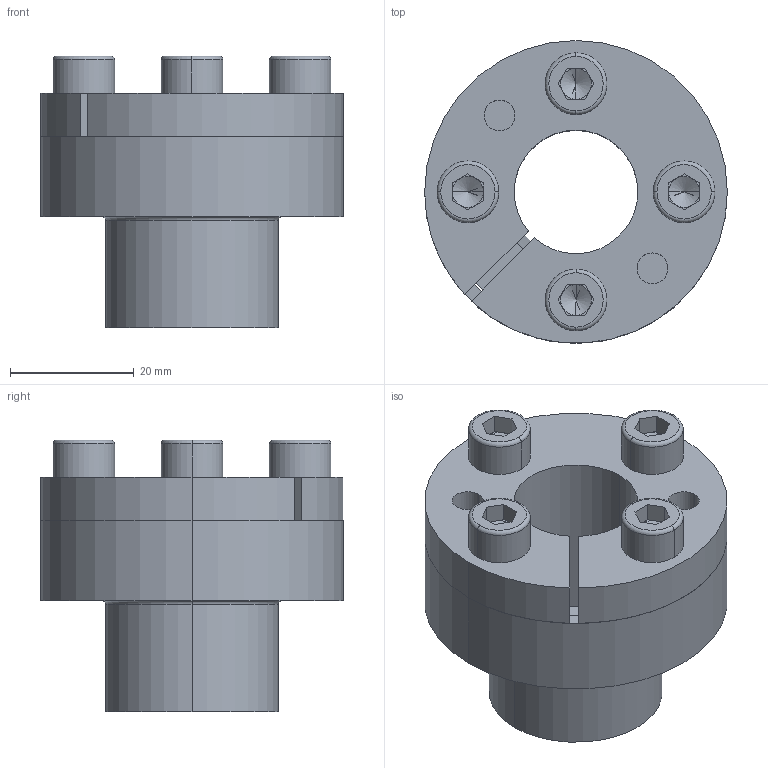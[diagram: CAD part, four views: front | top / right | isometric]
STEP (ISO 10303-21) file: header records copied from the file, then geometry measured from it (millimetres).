
FILE_DESCRIPTION (( 'STEP AP214' ), '1' );
FILE_NAME ('CONEX-B-20x28.step', '2013-04-04T12:41:30', ( 'Pc' ), ( '' ), 'SwSTEP 2.0', 'SolidWorks 2013', '' );
FILE_SCHEMA (( 'AUTOMOTIVE_DESIGN' ));
Length unit declared in the file: millimetre
Products named in the file (1): CONEX-B-20x28
Bounding box: 49 x 49 x 43.98 mm (x, y, z)
Volume: 32114.4 mm3; surface area: 23310.6 mm2
Topology: 7 solids, 7 shells, 174 faces, 414 edges, 250 vertices
Faces by surface type: plane 72, cylinder 52, torus 24, cone 22, bspline 4
Entity records: 7192 total; most frequent: CARTESIAN_POINT 1039, DIRECTION 942, ORIENTED_EDGE 812, EDGE_CURVE 406, AXIS2_PLACEMENT_3D 379, VERTEX_POINT 250, CIRCLE 208, EDGE_LOOP 200
